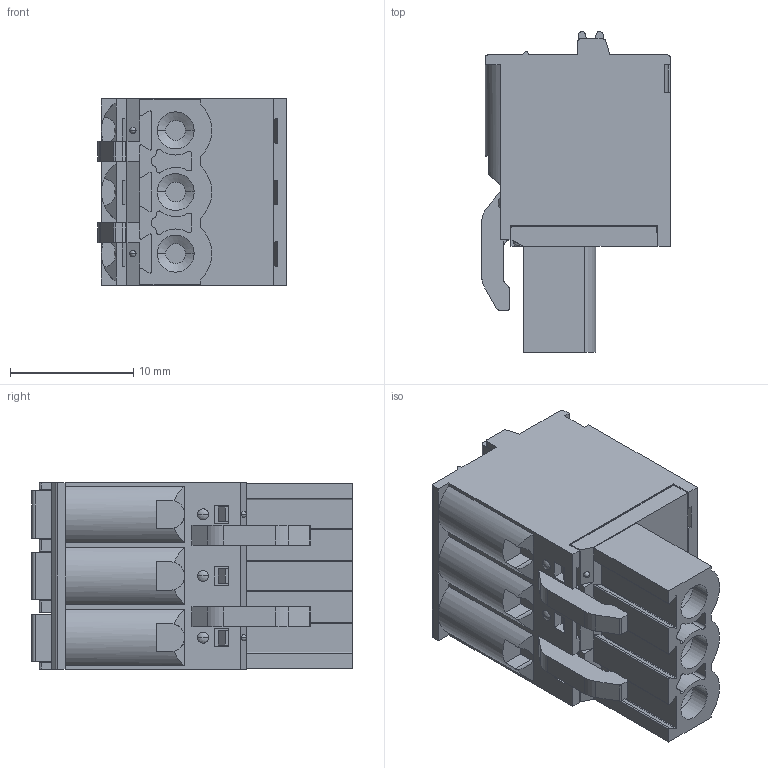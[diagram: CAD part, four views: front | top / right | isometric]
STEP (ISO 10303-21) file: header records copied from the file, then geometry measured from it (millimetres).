
FILE_DESCRIPTION((''),'2;1');
FILE_NAME('33','2019-04-09T',('zhenbing.lai'),(''),'CREO PARAMETRIC BY PTC INC, 2016260','CREO PARAMETRIC BY PTC INC, 2016260','');
FILE_SCHEMA(('CONFIG_CONTROL_DESIGN'));
Length unit declared in the file: millimetre
Products named in the file (1): 33
Bounding box: 15.3 x 26 x 15.1 mm (x, y, z)
Volume: 3955.1 mm3; surface area: 2228.4 mm2
Topology: 1 solids, 1 shells, 406 faces, 1156 edges, 764 vertices
Faces by surface type: plane 290, cylinder 91, sphere 10, cone 9, torus 6
Entity records: 13233 total; most frequent: CARTESIAN_POINT 2424, ORIENTED_EDGE 2292, DIRECTION 2211, EDGE_CURVE 1146, VECTOR 845, LINE 845, VERTEX_POINT 764, AXIS2_PLACEMENT_3D 683
